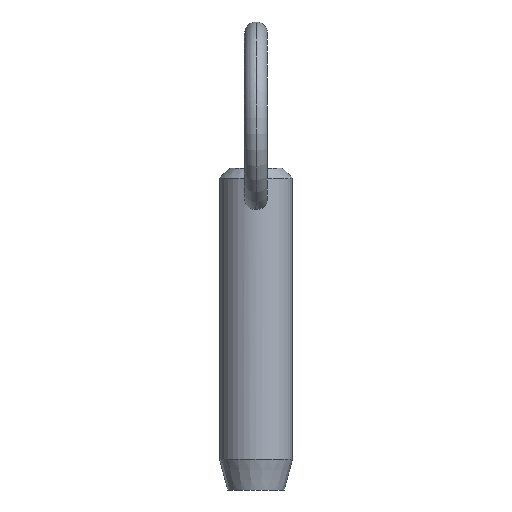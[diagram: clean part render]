
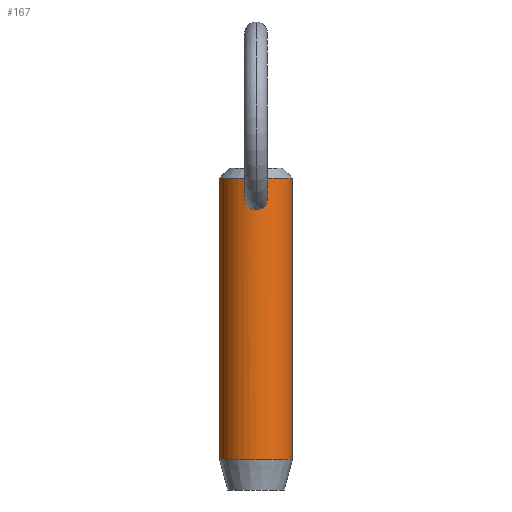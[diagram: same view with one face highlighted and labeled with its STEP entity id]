
A CAD part, front view. The second image highlights one B-rep face of the part: STEP entity #167.
In plain terms, the highlighted cylindrical face has radius 4.76 mm (diameter 9.52 mm), a partial arc.
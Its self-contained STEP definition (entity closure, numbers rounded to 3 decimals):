
#7 = B_SPLINE_CURVE_WITH_KNOTS ( 'NONE', 3,
 ( #472, #336, #16, #330, #377, #53, #502, #372, #499, #126, #252, #128, #417, #459, #211, #380, #169, #214, #343, #105, #304, #509, #19, #182, #257, #224, #228, #297, #222, #180 ),
 .UNSPECIFIED., .F., .F.,
 ( 4, 2, 2, 2, 2, 2, 2, 2, 2, 2, 2, 2, 2, 2, 4 ),
 ( 0.004, 0.005, 0.005, 0.005, 0.006, 0.006, 0.007, 0.007, 0.007, 0.007, 0.008, 0.008, 0.009, 0.009, 0.009 ),
 .UNSPECIFIED. ) ;
#11 = ORIENTED_EDGE ( 'NONE', *, *, #368, .T. ) ;
#16 = CARTESIAN_POINT ( 'NONE',  ( 0.209, -4.756, 27.134 ) ) ;
#19 = CARTESIAN_POINT ( 'NONE',  ( 1.178, -4.613, 24.376 ) ) ;
#23 = DIRECTION ( 'NONE',  ( 0., 0., -1. ) ) ;
#24 = ORIENTED_EDGE ( 'NONE', *, *, #296, .T. ) ;
#27 = EDGE_CURVE ( 'NONE', #255, #370, #77, .T. ) ;
#28 = CARTESIAN_POINT ( 'NONE',  ( -1.19, -4.611, 26.424 ) ) ;
#31 = CARTESIAN_POINT ( 'NONE',  ( -0.961, -4.663, 24.157 ) ) ;
#44 = B_SPLINE_CURVE_WITH_KNOTS ( 'NONE', 3,
 ( #209, #425, #186, #104, #422, #31, #469, #299, #342, #263, #427, #478, #259, #94, #28, #227, #303, #295, #347, #397, #517, #511 ),
 .UNSPECIFIED., .F., .F.,
 ( 4, 2, 2, 2, 2, 2, 2, 2, 2, 2, 4 ),
 ( 0.009, 0.01, 0.01, 0.011, 0.011, 0.012, 0.012, 0.013, 0.014, 0.014, 0.014 ),
 .UNSPECIFIED. ) ;
#48 = CARTESIAN_POINT ( 'NONE',  ( 4.76, 0., 22.9 ) ) ;
#53 = CARTESIAN_POINT ( 'NONE',  ( 0.687, -4.711, 26.935 ) ) ;
#54 = DIRECTION ( 'NONE',  ( 0., 0., -1. ) ) ;
#69 = CARTESIAN_POINT ( 'NONE',  ( 0., 0., -8.7 ) ) ;
#77 = LINE ( 'NONE', #161, #184 ) ;
#94 = CARTESIAN_POINT ( 'NONE',  ( -1.292, -4.582, 26.245 ) ) ;
#104 = CARTESIAN_POINT ( 'NONE',  ( -0.703, -4.709, 23.989 ) ) ;
#105 = CARTESIAN_POINT ( 'NONE',  ( 1.385, -4.554, 24.732 ) ) ;
#126 = CARTESIAN_POINT ( 'NONE',  ( 1.19, -4.611, 26.424 ) ) ;
#128 = CARTESIAN_POINT ( 'NONE',  ( 1.404, -4.548, 25.953 ) ) ;
#152 = DIRECTION ( 'NONE',  ( -1., 0., 0. ) ) ;
#157 = VECTOR ( 'NONE', #54, 1000. ) ;
#160 = EDGE_CURVE ( 'NONE', #451, #362, #375, .T. ) ;
#161 = CARTESIAN_POINT ( 'NONE',  ( -4.76, 0., 22.9 ) ) ;
#167 = ADVANCED_FACE ( 'NONE', ( #492, #264 ), #207, .T. ) ;
#169 = CARTESIAN_POINT ( 'NONE',  ( 1.499, -4.518, 25.237 ) ) ;
#175 = ORIENTED_EDGE ( 'NONE', *, *, #160, .F. ) ;
#178 = CARTESIAN_POINT ( 'NONE',  ( 0., 0., 27.95 ) ) ;
#180 = CARTESIAN_POINT ( 'NONE',  ( 0., -4.76, 23.826 ) ) ;
#182 = CARTESIAN_POINT ( 'NONE',  ( 0.97, -4.662, 24.15 ) ) ;
#184 = VECTOR ( 'NONE', #325, 1000. ) ;
#186 = CARTESIAN_POINT ( 'NONE',  ( -0.416, -4.746, 23.867 ) ) ;
#191 = VERTEX_POINT ( 'NONE', #498 ) ;
#207 = CYLINDRICAL_SURFACE ( 'NONE', #523, 4.76 ) ;
#209 = CARTESIAN_POINT ( 'NONE',  ( 0., -4.76, 23.826 ) ) ;
#211 = CARTESIAN_POINT ( 'NONE',  ( 1.492, -4.52, 25.548 ) ) ;
#213 = CIRCLE ( 'NONE', #443, 4.76 ) ;
#214 = CARTESIAN_POINT ( 'NONE',  ( 1.473, -4.526, 25.031 ) ) ;
#217 = DIRECTION ( 'NONE',  ( -1., 0., 0. ) ) ;
#222 = CARTESIAN_POINT ( 'NONE',  ( 0.105, -4.76, 23.826 ) ) ;
#224 = CARTESIAN_POINT ( 'NONE',  ( 0.512, -4.733, 23.908 ) ) ;
#227 = CARTESIAN_POINT ( 'NONE',  ( -0.932, -4.67, 26.745 ) ) ;
#228 = CARTESIAN_POINT ( 'NONE',  ( 0.411, -4.743, 23.877 ) ) ;
#244 = ORIENTED_EDGE ( 'NONE', *, *, #407, .T. ) ;
#248 = CIRCLE ( 'NONE', #506, 4.76 ) ;
#252 = CARTESIAN_POINT ( 'NONE',  ( 1.293, -4.582, 26.242 ) ) ;
#255 = VERTEX_POINT ( 'NONE', #381 ) ;
#257 = CARTESIAN_POINT ( 'NONE',  ( 0.797, -4.697, 24.029 ) ) ;
#259 = CARTESIAN_POINT ( 'NONE',  ( -1.441, -4.537, 25.857 ) ) ;
#263 = CARTESIAN_POINT ( 'NONE',  ( -1.483, -4.524, 25.026 ) ) ;
#264 = FACE_BOUND ( 'NONE', #448, .T. ) ;
#269 = EDGE_LOOP ( 'NONE', ( #175, #11, #280, #244 ) ) ;
#280 = ORIENTED_EDGE ( 'NONE', *, *, #27, .T. ) ;
#290 = CARTESIAN_POINT ( 'NONE',  ( 0., 0., 22.9 ) ) ;
#293 = CARTESIAN_POINT ( 'NONE',  ( 4.76, 0., -8.7 ) ) ;
#295 = CARTESIAN_POINT ( 'NONE',  ( -0.504, -4.734, 27.038 ) ) ;
#296 = EDGE_CURVE ( 'NONE', #191, #495, #44, .T. ) ;
#297 = CARTESIAN_POINT ( 'NONE',  ( 0.208, -4.757, 23.836 ) ) ;
#299 = CARTESIAN_POINT ( 'NONE',  ( -1.247, -4.596, 24.452 ) ) ;
#303 = CARTESIAN_POINT ( 'NONE',  ( -0.777, -4.7, 26.885 ) ) ;
#304 = CARTESIAN_POINT ( 'NONE',  ( 1.344, -4.567, 24.639 ) ) ;
#321 = EDGE_CURVE ( 'NONE', #495, #191, #7, .T. ) ;
#325 = DIRECTION ( 'NONE',  ( 0., 0., -1. ) ) ;
#330 = CARTESIAN_POINT ( 'NONE',  ( 0.409, -4.743, 27.078 ) ) ;
#336 = CARTESIAN_POINT ( 'NONE',  ( 0.104, -4.76, 27.148 ) ) ;
#342 = CARTESIAN_POINT ( 'NONE',  ( -1.353, -4.564, 24.635 ) ) ;
#343 = CARTESIAN_POINT ( 'NONE',  ( 1.45, -4.534, 24.928 ) ) ;
#347 = CARTESIAN_POINT ( 'NONE',  ( -0.409, -4.743, 27.078 ) ) ;
#352 = DIRECTION ( 'NONE',  ( 0., 0., 1. ) ) ;
#358 = ORIENTED_EDGE ( 'NONE', *, *, #321, .T. ) ;
#362 = VERTEX_POINT ( 'NONE', #293 ) ;
#368 = EDGE_CURVE ( 'NONE', #451, #255, #248, .T. ) ;
#370 = VERTEX_POINT ( 'NONE', #507 ) ;
#372 = CARTESIAN_POINT ( 'NONE',  ( 0.925, -4.67, 26.739 ) ) ;
#375 = LINE ( 'NONE', #48, #157 ) ;
#377 = CARTESIAN_POINT ( 'NONE',  ( 0.506, -4.734, 27.037 ) ) ;
#380 = CARTESIAN_POINT ( 'NONE',  ( 1.503, -4.517, 25.34 ) ) ;
#381 = CARTESIAN_POINT ( 'NONE',  ( -4.76, 0., 27.95 ) ) ;
#392 = DIRECTION ( 'NONE',  ( 1., 0., 0. ) ) ;
#397 = CARTESIAN_POINT ( 'NONE',  ( -0.208, -4.757, 27.134 ) ) ;
#406 = CARTESIAN_POINT ( 'NONE',  ( 4.76, 0., 27.95 ) ) ;
#407 = EDGE_CURVE ( 'NONE', #370, #362, #213, .T. ) ;
#417 = CARTESIAN_POINT ( 'NONE',  ( 1.434, -4.539, 25.854 ) ) ;
#422 = CARTESIAN_POINT ( 'NONE',  ( -0.793, -4.694, 24.039 ) ) ;
#425 = CARTESIAN_POINT ( 'NONE',  ( -0.21, -4.76, 23.826 ) ) ;
#427 = CARTESIAN_POINT ( 'NONE',  ( -1.508, -4.515, 25.237 ) ) ;
#438 = CARTESIAN_POINT ( 'NONE',  ( 0., -4.76, 27.148 ) ) ;
#443 = AXIS2_PLACEMENT_3D ( 'NONE', #69, #352, #152 ) ;
#448 = EDGE_LOOP ( 'NONE', ( #358, #24 ) ) ;
#451 = VERTEX_POINT ( 'NONE', #406 ) ;
#459 = CARTESIAN_POINT ( 'NONE',  ( 1.478, -4.525, 25.652 ) ) ;
#464 = DIRECTION ( 'NONE',  ( 0., 0., -1. ) ) ;
#469 = CARTESIAN_POINT ( 'NONE',  ( -1.039, -4.646, 24.226 ) ) ;
#472 = CARTESIAN_POINT ( 'NONE',  ( 0., -4.76, 27.148 ) ) ;
#478 = CARTESIAN_POINT ( 'NONE',  ( -1.487, -4.522, 25.653 ) ) ;
#492 = FACE_OUTER_BOUND ( 'NONE', #269, .T. ) ;
#495 = VERTEX_POINT ( 'NONE', #438 ) ;
#498 = CARTESIAN_POINT ( 'NONE',  ( 0., -4.76, 23.826 ) ) ;
#499 = CARTESIAN_POINT ( 'NONE',  ( 0.997, -4.655, 26.664 ) ) ;
#502 = CARTESIAN_POINT ( 'NONE',  ( 0.77, -4.698, 26.875 ) ) ;
#506 = AXIS2_PLACEMENT_3D ( 'NONE', #178, #23, #392 ) ;
#507 = CARTESIAN_POINT ( 'NONE',  ( -4.76, 0., -8.7 ) ) ;
#509 = CARTESIAN_POINT ( 'NONE',  ( 1.24, -4.596, 24.46 ) ) ;
#511 = CARTESIAN_POINT ( 'NONE',  ( 0., -4.76, 27.148 ) ) ;
#517 = CARTESIAN_POINT ( 'NONE',  ( -0.103, -4.76, 27.148 ) ) ;
#523 = AXIS2_PLACEMENT_3D ( 'NONE', #290, #464, #217 ) ;
